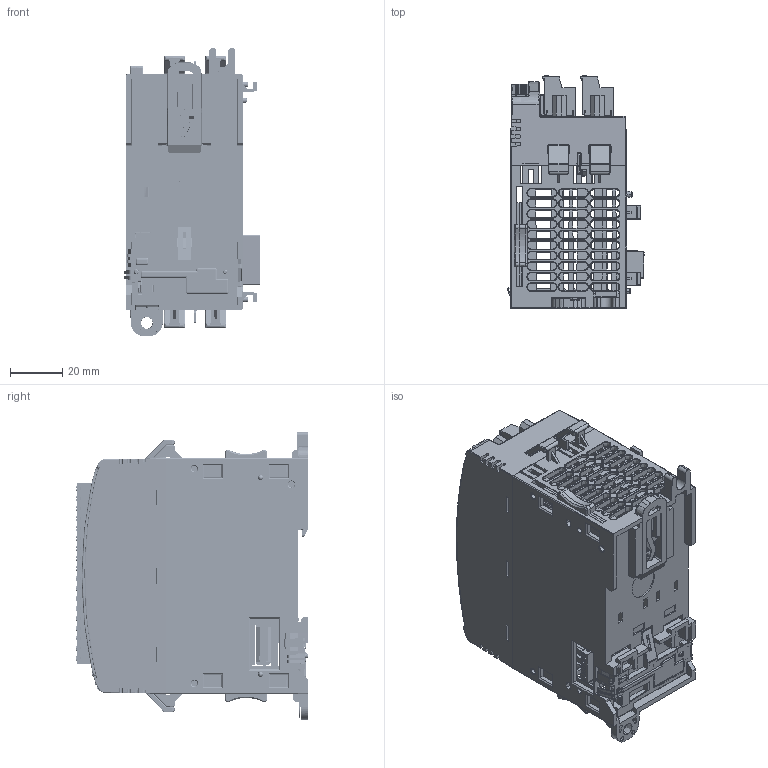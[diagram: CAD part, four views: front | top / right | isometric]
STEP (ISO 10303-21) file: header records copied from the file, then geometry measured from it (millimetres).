
FILE_DESCRIPTION (( 'STEP AP203' ), '1' );
FILE_NAME ('2085-IF16.STEP', '2021-12-30T01:45:02', ( '' ), ( '' ), 'SwSTEP 2.0', 'SolidWorks 2021', '' );
FILE_SCHEMA (( 'CONFIG_CONTROL_DESIGN' ));
Length unit declared in the file: millimetre
Products named in the file (13): 2085-BASE.stp; 2085-IF16; EB1388-18-500.stp; TFM_110_11_H_D; 1400236-01.stp; 2-EB1388-18-500.stp; 2085_TERMINAL_PLUGS; TFM_110_11_H_D_5; TFM_110_11_H_D_3; SFM_110_01_L_D_3; SFM_110_01_L_D_5; 2085_LED; SFM_110_01_L_D
Assembly tree (12 placements, depth 3):
  2085-IF16
    2085-BASE.stp
    1400236-01.stp
    TFM_110_11_H_D
      TFM_110_11_H_D_3
      TFM_110_11_H_D_5
    SFM_110_01_L_D
      SFM_110_01_L_D_3
      SFM_110_01_L_D_5
    2085_TERMINAL_PLUGS
      EB1388-18-500.stp
      2-EB1388-18-500.stp
    2085_LED
Bounding box: 52.2 x 88.8 x 110 mm (x, y, z)
Volume: 43593 mm3; surface area: 87951.2 mm2
Topology: 10 solids, 85 shells, 7984 faces, 22312 edges, 14574 vertices
Faces by surface type: plane 6004, bspline 1061, cylinder 824, cone 72, sphere 18, torus 5
Entity records: 318621 total; most frequent: CARTESIAN_POINT 130413, ORIENTED_EDGE 44554, DIRECTION 29121, EDGE_CURVE 22283, VERTEX_POINT 14574, VECTOR 13061, LINE 13061, EDGE_LOOP 8650
